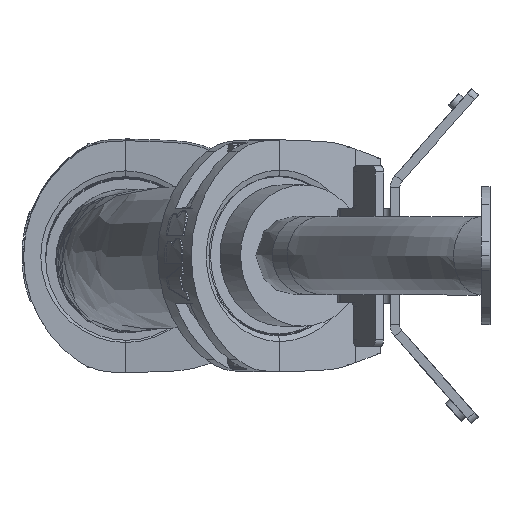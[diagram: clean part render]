
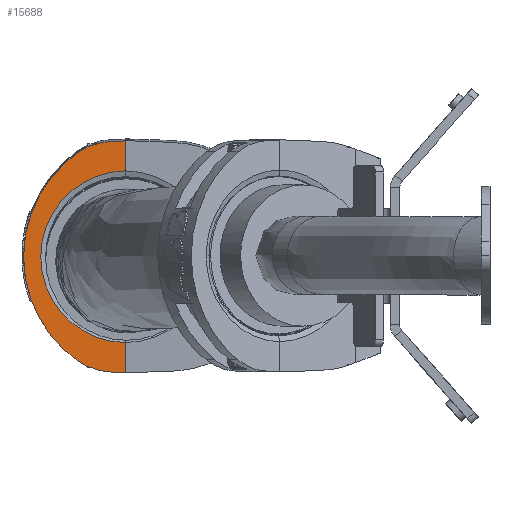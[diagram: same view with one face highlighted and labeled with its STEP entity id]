
A CAD part, left-side view. The second image highlights one B-rep face of the part: STEP entity #15688.
In plain terms, the highlighted planar face has unit normal (-0.999, -0.035, -0.028).
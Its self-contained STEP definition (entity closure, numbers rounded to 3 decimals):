
#468 = AXIS2_PLACEMENT_3D ( 'NONE', #19063, #9948, #6275 ) ;
#593 = EDGE_CURVE ( 'NONE', #15333, #11113, #23337, .T. ) ;
#1161 = ORIENTED_EDGE ( 'NONE', *, *, #23295, .T. ) ;
#1611 = CARTESIAN_POINT ( 'NONE',  ( 1938.221, 351.872, 2458.163 ) ) ;
#1772 = CARTESIAN_POINT ( 'NONE',  ( 1935.351, 321.274, 2598.218 ) ) ;
#2346 = VERTEX_POINT ( 'NONE', #8630 ) ;
#2424 = CARTESIAN_POINT ( 'NONE',  ( 1939.502, 321.274, 2450.625 ) ) ;
#2470 = PLANE ( 'NONE',  #468 ) ;
#3010 = DIRECTION ( 'NONE',  ( -0.034, 0.999, -0.036 ) ) ;
#3076 = DIRECTION ( 'NONE',  ( -0.036, 0.999, 0.034 ) ) ;
#3253 = CARTESIAN_POINT ( 'NONE',  ( 1938.57, 345.478, 2453.675 ) ) ;
#3293 = CARTESIAN_POINT ( 'NONE',  ( 1939.179, 330.257, 2450.93 ) ) ;
#3362 = CARTESIAN_POINT ( 'NONE',  ( 1935.047, 330.257, 2597.895 ) ) ;
#3380 = CARTESIAN_POINT ( 'NONE',  ( 1939.179, 330.257, 2450.93 ) ) ;
#3602 = CARTESIAN_POINT ( 'NONE',  ( 1934.496, 351.872, 2590.62 ) ) ;
#4221 = VECTOR ( 'NONE', #3010, 1000. ) ;
#5045 = VERTEX_POINT ( 'NONE', #10101 ) ;
#5114 = EDGE_CURVE ( 'NONE', #16611, #21149, #21518, .T. ) ;
#6243 = LINE ( 'NONE', #17046, #19592 ) ;
#6266 = ORIENTED_EDGE ( 'NONE', *, *, #9533, .F. ) ;
#6275 = DIRECTION ( 'NONE',  ( 0., 0.627, -0.779 ) ) ;
#6581 = EDGE_CURVE ( 'NONE', #15333, #19116, #6243, .T. ) ;
#7286 = ORIENTED_EDGE ( 'NONE', *, *, #19509, .F. ) ;
#7750 = ORIENTED_EDGE ( 'NONE', *, *, #6581, .F. ) ;
#7898 = ORIENTED_EDGE ( 'NONE', *, *, #20703, .T. ) ;
#8630 = CARTESIAN_POINT ( 'NONE',  ( 1939.502, 321.274, 2450.625 ) ) ;
#8680 =( BOUNDED_CURVE ( )  B_SPLINE_CURVE ( 3, ( #3362, #20529, #23906, #3602 ),
 .UNSPECIFIED., .F., .F. ) 
 B_SPLINE_CURVE_WITH_KNOTS ( ( 4, 4 ),
 ( 1.606, 2.184 ),
 .UNSPECIFIED. ) 
 CURVE ( )  GEOMETRIC_REPRESENTATION_ITEM ( )  RATIONAL_B_SPLINE_CURVE ( ( 1., 0.972, 0.972, 1. ) ) 
 REPRESENTATION_ITEM ( '' )  );
#8855 = CARTESIAN_POINT ( 'NONE',  ( 1934.496, 351.872, 2590.62 ) ) ;
#9533 = EDGE_CURVE ( 'NONE', #2346, #21149, #13504, .T. ) ;
#9729 =( BOUNDED_CURVE ( )  B_SPLINE_CURVE ( 3, ( #8855, #20390, #23551, #1611 ),
 .UNSPECIFIED., .F., .T. ) 
 B_SPLINE_CURVE_WITH_KNOTS ( ( 4, 4 ),
 ( 2.184, 4.099 ),
 .UNSPECIFIED. ) 
 CURVE ( )  GEOMETRIC_REPRESENTATION_ITEM ( )  RATIONAL_B_SPLINE_CURVE ( ( 1., 0.717, 0.717, 1. ) ) 
 REPRESENTATION_ITEM ( '' )  );
#9948 = DIRECTION ( 'NONE',  ( 0.999, 0.035, 0.028 ) ) ;
#10101 = CARTESIAN_POINT ( 'NONE',  ( 1938.966, 321.274, 2469.682 ) ) ;
#11058 = CARTESIAN_POINT ( 'NONE',  ( 1934.496, 351.872, 2590.62 ) ) ;
#11113 = VERTEX_POINT ( 'NONE', #17896 ) ;
#11486 = AXIS2_PLACEMENT_3D ( 'NONE', #16980, #20925, #14922 ) ;
#12685 = CARTESIAN_POINT ( 'NONE',  ( 1938.221, 351.872, 2458.163 ) ) ;
#13504 = LINE ( 'NONE', #15461, #18176 ) ;
#13714 = DIRECTION ( 'NONE',  ( 0.028, 0., -1. ) ) ;
#13968 = CARTESIAN_POINT ( 'NONE',  ( 1935.887, 321.274, 2579.162 ) ) ;
#14068 = VERTEX_POINT ( 'NONE', #11058 ) ;
#14115 = ORIENTED_EDGE ( 'NONE', *, *, #593, .T. ) ;
#14785 = EDGE_CURVE ( 'NONE', #14068, #16611, #9729, .T. ) ;
#14922 = DIRECTION ( 'NONE',  ( -0.035, 0.999, -0.001 ) ) ;
#15333 = VERTEX_POINT ( 'NONE', #1772 ) ;
#15461 = CARTESIAN_POINT ( 'NONE',  ( 1939.499, 321.341, 2450.628 ) ) ;
#15688 = ADVANCED_FACE ( 'NONE', ( #16958 ), #2470, .F. ) ;
#16366 = CARTESIAN_POINT ( 'NONE',  ( 1938.899, 338.068, 2451.195 ) ) ;
#16611 = VERTEX_POINT ( 'NONE', #17469 ) ;
#16907 = LINE ( 'NONE', #2424, #20252 ) ;
#16958 = FACE_OUTER_BOUND ( 'NONE', #20087, .T. ) ;
#16980 = CARTESIAN_POINT ( 'NONE',  ( 1937.452, 320.556, 2524.422 ) ) ;
#17046 = CARTESIAN_POINT ( 'NONE',  ( 1939.502, 321.274, 2450.625 ) ) ;
#17276 = DIRECTION ( 'NONE',  ( 0.028, 0., -1. ) ) ;
#17469 = CARTESIAN_POINT ( 'NONE',  ( 1938.221, 351.872, 2458.163 ) ) ;
#17896 = CARTESIAN_POINT ( 'NONE',  ( 1935.047, 330.257, 2597.895 ) ) ;
#18176 = VECTOR ( 'NONE', #3076, 1000. ) ;
#19063 = CARTESIAN_POINT ( 'NONE',  ( 1938.317, 376.274, 2424.407 ) ) ;
#19116 = VERTEX_POINT ( 'NONE', #13968 ) ;
#19509 = EDGE_CURVE ( 'NONE', #5045, #2346, #16907, .T. ) ;
#19592 = VECTOR ( 'NONE', #17276, 1000. ) ;
#19939 = CARTESIAN_POINT ( 'NONE',  ( 1933.282, 382.262, 2596.029 ) ) ;
#20087 = EDGE_LOOP ( 'NONE', ( #23858, #6266, #7286, #1161, #7750, #14115, #7898, #23063 ) ) ;
#20252 = VECTOR ( 'NONE', #13714, 1000. ) ;
#20390 = CARTESIAN_POINT ( 'NONE',  ( 1933.733, 402.271, 2555.138 ) ) ;
#20529 = CARTESIAN_POINT ( 'NONE',  ( 1934.782, 338.068, 2597.615 ) ) ;
#20703 = EDGE_CURVE ( 'NONE', #11113, #14068, #8680, .T. ) ;
#20925 = DIRECTION ( 'NONE',  ( 0.999, 0.035, 0.028 ) ) ;
#21149 = VERTEX_POINT ( 'NONE', #3293 ) ;
#21518 =( BOUNDED_CURVE ( )  B_SPLINE_CURVE ( 3, ( #12685, #3253, #16366, #3380 ),
 .UNSPECIFIED., .F., .T. ) 
 B_SPLINE_CURVE_WITH_KNOTS ( ( 4, 4 ),
 ( 4.099, 4.677 ),
 .UNSPECIFIED. ) 
 CURVE ( )  GEOMETRIC_REPRESENTATION_ITEM ( )  RATIONAL_B_SPLINE_CURVE ( ( 1., 0.972, 0.972, 1. ) ) 
 REPRESENTATION_ITEM ( '' )  );
#22069 = CIRCLE ( 'NONE', #11486, 54.766 ) ;
#23063 = ORIENTED_EDGE ( 'NONE', *, *, #14785, .T. ) ;
#23295 = EDGE_CURVE ( 'NONE', #5045, #19116, #22069, .T. ) ;
#23337 = LINE ( 'NONE', #19939, #4221 ) ;
#23551 = CARTESIAN_POINT ( 'NONE',  ( 1935.465, 402.271, 2493.546 ) ) ;
#23858 = ORIENTED_EDGE ( 'NONE', *, *, #5114, .T. ) ;
#23906 = CARTESIAN_POINT ( 'NONE',  ( 1934.593, 345.478, 2595.121 ) ) ;
